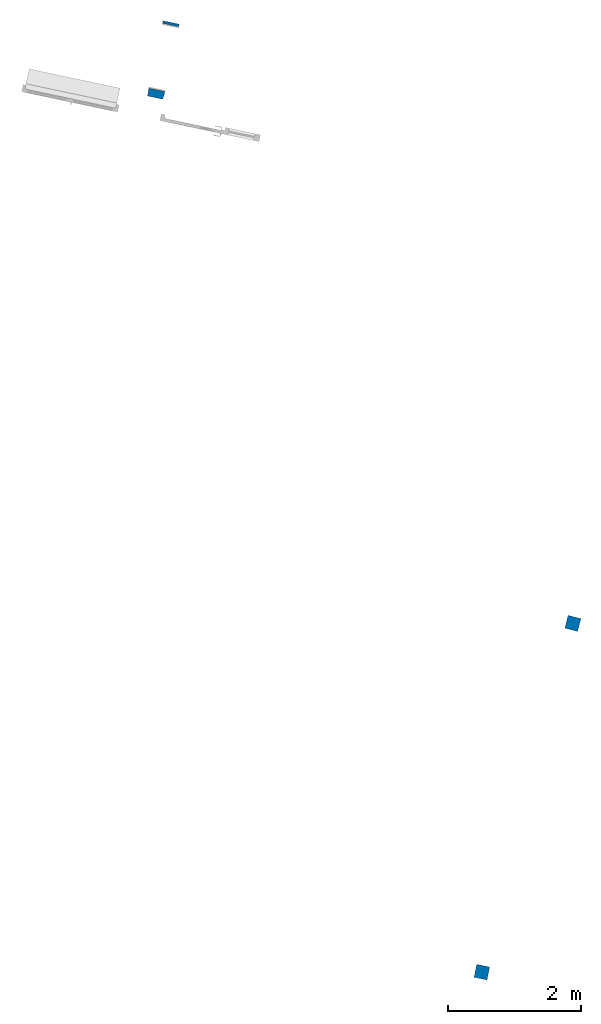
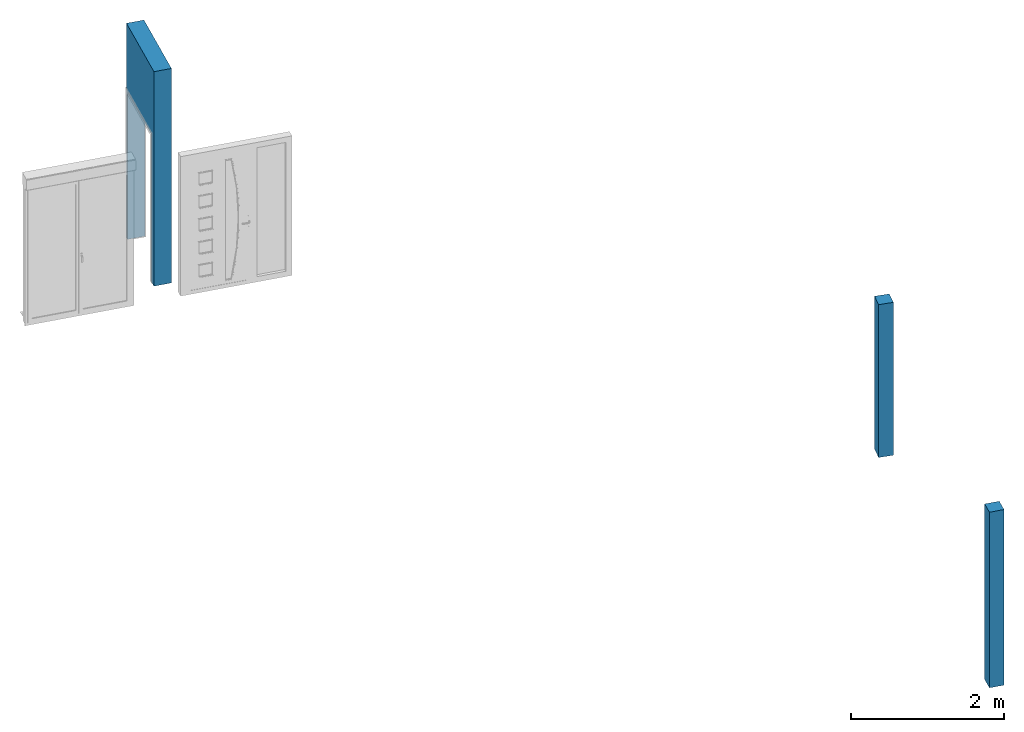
# One storey, part 1 of 2: 2 columns, 1 wall, 1 opening.
"""IFC2X3 building model written with IfcOpenShell, lengths in metres."""

from ifc_helpers import new_model, entity, si_unit, converted_unit, derived_unit, direction, frame, frame_2d, origin, origin_2d_with_axis, place, context, subcontext, project, spatial, rectangle, extrude, source, transform, mapped, material, layer, layer_set, layer_usage, type_object, type_shapes, element, save


model = new_model("IFC2X3")

# Units and contexts
model_context = context("Model", 3, precision=1e-05, world=origin(), true_north=direction((6.12303176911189e-17, 1.0)))
body_context = subcontext(model_context, "Body", "Model", "MODEL_VIEW")
ifc_project = project(units=[si_unit("LENGTHUNIT", "METRE"), si_unit("AREAUNIT", "SQUARE_METRE"), si_unit("VOLUMEUNIT", "CUBIC_METRE"), converted_unit("PLANEANGLEUNIT", "DEGREE", entity("IfcRatioMeasure", 0.0174532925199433), si_unit("PLANEANGLEUNIT", "RADIAN"), dimensions=[0, 0, 0, 0, 0, 0, 0]), si_unit("MASSUNIT", "GRAM", prefix="KILO"), derived_unit("MASSDENSITYUNIT", [(si_unit("MASSUNIT", "GRAM", prefix="KILO"), 1), (si_unit("LENGTHUNIT", "METRE"), -3)]), si_unit("TIMEUNIT", "SECOND"), si_unit("FREQUENCYUNIT", "HERTZ"), si_unit("THERMODYNAMICTEMPERATUREUNIT", "DEGREE_CELSIUS"), derived_unit("THERMALTRANSMITTANCEUNIT", [(si_unit("MASSUNIT", "GRAM", prefix="KILO"), 1), (si_unit("THERMODYNAMICTEMPERATUREUNIT", "KELVIN"), -1), (si_unit("TIMEUNIT", "SECOND"), -3)]), derived_unit("VOLUMETRICFLOWRATEUNIT", [(si_unit("LENGTHUNIT", "METRE"), 3), (si_unit("TIMEUNIT", "SECOND"), -1)]), si_unit("ELECTRICCURRENTUNIT", "AMPERE"), si_unit("ELECTRICVOLTAGEUNIT", "VOLT"), si_unit("POWERUNIT", "WATT"), si_unit("FORCEUNIT", "NEWTON", prefix="KILO"), si_unit("ILLUMINANCEUNIT", "LUX"), si_unit("LUMINOUSFLUXUNIT", "LUMEN"), si_unit("LUMINOUSINTENSITYUNIT", "CANDELA"), derived_unit("USERDEFINED", [(si_unit("MASSUNIT", "GRAM", prefix="KILO"), -1), (si_unit("LENGTHUNIT", "METRE"), -2), (si_unit("TIMEUNIT", "SECOND"), 3), (si_unit("LUMINOUSFLUXUNIT", "LUMEN"), 1)]), derived_unit("LINEARVELOCITYUNIT", [(si_unit("LENGTHUNIT", "METRE"), 1), (si_unit("TIMEUNIT", "SECOND"), -1)]), si_unit("PRESSUREUNIT", "PASCAL"), derived_unit("USERDEFINED", [(si_unit("LENGTHUNIT", "METRE"), -2), (si_unit("MASSUNIT", "GRAM", prefix="KILO"), 1), (si_unit("TIMEUNIT", "SECOND"), -2)])], contexts=[model_context])

# Site, building, storey
site_placement = place(None, origin())
site = spatial("IfcSite", under=ifc_project, at=site_placement, Name="Default", CompositionType="ELEMENT")
building_placement = place(site_placement, origin())
building = spatial("IfcBuilding", under=site, at=building_placement, CompositionType="ELEMENT")
storey_placement = place(building_placement, origin())
storey = spatial("IfcBuildingStorey", under=building, at=storey_placement, Name="Plan des fondations  Maisons 1 et 2", CompositionType="ELEMENT", Elevation=0.0)

# Columns
ifc_material_1 = material(Name="Maçonnerie - Béton coulé sur place")
column_type_1 = type_object("IfcColumnType", Name="20 X 20", PredefinedType="COLUMN")
shared_shape_1 = source(origin(), body_context, "Body", "SweptSolid", [
    extrude(rectangle(XDim=0.200000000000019, YDim=0.200000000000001, at=frame_2d((-2.77555756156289e-16, 1.0547118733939e-15), x_axis=(1.0, 0.0))), frame((-9.07033245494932, 78.4099005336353, -0.0686871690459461), z_axis=(0.0, 0.0, 1.0), x_axis=(0.253226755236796, 0.967406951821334, 0.0)), (0.0, 0.0, 1.0), 2.4373),
])
type_shapes(column_type_1, [shared_shape_1])
column_1_placement = place(storey_placement, origin())
element("IfcColumn", 1, at=column_1_placement, inside=storey, type_object=column_type_1, material=ifc_material_1, Name="M_Béton-Carré-Poteau:20 X 20", ObjectType="M_Béton-Carré-Poteau:20 X 20", context=body_context, shape_type="MappedRepresentation", body=[
    mapped(shared_shape_1, transform((0.0, 0.0, 0.0), scale=1.0)),
])
column_type_2 = type_object("IfcColumnType", Name="20 X 20", PredefinedType="COLUMN")
shared_shape_2 = source(origin(), body_context, "Body", "SweptSolid", [
    extrude(rectangle(XDim=0.199999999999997, YDim=0.200000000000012, at=origin_2d_with_axis()), frame((-10.4428384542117, 73.149169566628, -0.0686871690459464), z_axis=(0.0, 0.0, 1.0), x_axis=(-0.978645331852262, 0.205556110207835, 0.0)), (0.0, 0.0, 1.0), 2.8),
])
type_shapes(column_type_2, [shared_shape_2])
column_2_placement = place(storey_placement, origin())
element("IfcColumn", 2, at=column_2_placement, inside=storey, type_object=column_type_2, material=ifc_material_1, Name="M_Béton-Carré-Poteau:20 X 20", ObjectType="M_Béton-Carré-Poteau:20 X 20", context=body_context, shape_type="MappedRepresentation", body=[
    mapped(shared_shape_2, transform((0.0, 0.0, 0.0), scale=1.0)),
])

# Wall, opening
ifc_material_2 = material(Name="Enduit blanc cassé2")
ifc_layer_1 = layer(ifc_material_2, 0.02)
ifc_material_3 = material(Name="Parpaing")
ifc_layer_2 = layer(ifc_material_3, 0.2)
ifc_layer_3 = layer(ifc_material_2, 0.02)
ifc_layer_set = layer_set([ifc_layer_1, ifc_layer_2, ifc_layer_3], Name="Mur de base:Ext. Parpaing 2 + 20 + 2")
ifc_layer_usage = layer_usage(ifc_layer_set, "AXIS2", "NEGATIVE", 0.12)
wall_type = type_object("IfcWallType", Name="Mur de base:Ext. Parpaing 2 + 20 + 2", PredefinedType="STANDARD", material=ifc_layer_set)
wall_placement = place(storey_placement, frame((-15.1291142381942, 87.4745572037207, 0.0), z_axis=(0.0, 0.0, 1.0), x_axis=(-0.20748429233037, -0.978238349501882, 0.0)))
wall = element("IfcWallStandardCase", 3, at=wall_placement, inside=storey, type_object=wall_type, material=ifc_layer_usage, Name="Mur de base:Ext. Parpaing 2 + 20 + 2", ObjectType="Mur de base:Ext. Parpaing 2 + 20 + 2", context=body_context, shape_type="SweptSolid", body=[
    extrude(rectangle(XDim=1.16, YDim=0.24, at=frame_2d((0.58, 7.63278329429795e-16), x_axis=(-1.0, 0.0))), origin(), (0.0, 0.0, 1.0), 3.42),
])
opening_placement = place(wall_placement, frame((0.040239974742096, -0.120000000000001, 0.0)))
element("IfcOpeningElement", 4, at=opening_placement, cuts=wall, Name="Ouverture en rectangle:Ouverture en rectangle 1.00 M:1", ObjectType="Opening", context=body_context, shape_type="SweptSolid", body=[
    extrude(rectangle(XDim=2.34999999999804, YDim=1.0, at=frame_2d((1.17499999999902, 0.5), x_axis=(1.0, 0.0))), frame((0.0, 0.0, 0.0), z_axis=(0.0, 1.0, 0.0), x_axis=(0.0, 0.0, 1.0)), (0.0, 0.0, 1.0), 0.24),
])

save(model, "model.ifc")
